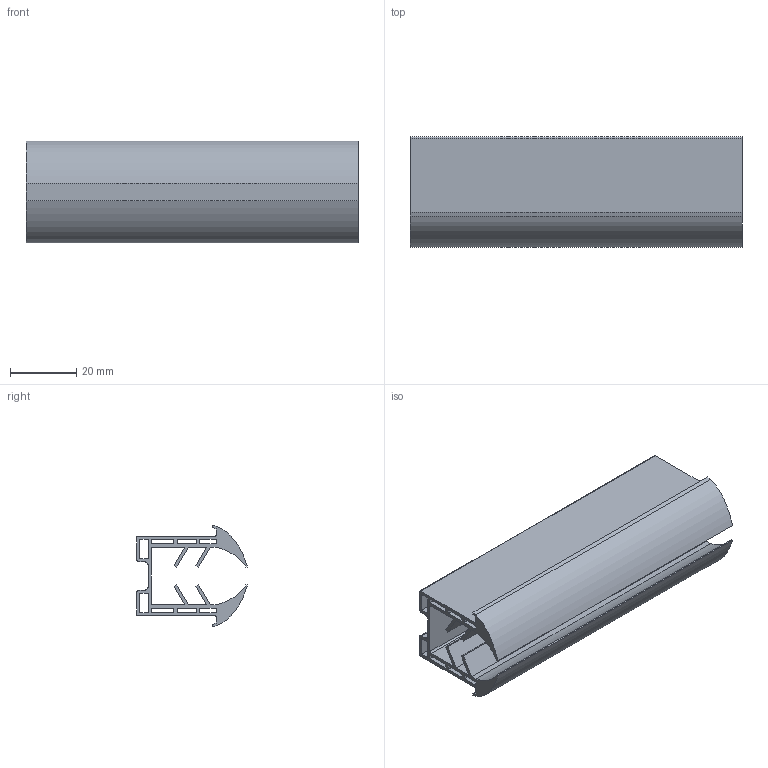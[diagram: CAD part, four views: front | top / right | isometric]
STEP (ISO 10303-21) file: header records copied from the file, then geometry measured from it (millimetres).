
FILE_DESCRIPTION (( 'STEP AP203' ), '1' );
FILE_NAME ('3D_GN6009_24x24_8-10.76_188461560.STEP', '2024-09-23T08:06:53', ( '' ), ( '' ), 'SwSTEP 2.0', 'SolidWorks 2024', '' );
FILE_SCHEMA (( 'CONFIG_CONTROL_DESIGN' ));
Length unit declared in the file: millimetre
Products named in the file (1): 3D_GN6009_24x24_8-10.76_188461560
Bounding box: 100 x 33.41 x 30.67 mm (x, y, z)
Volume: 24621.9 mm3; surface area: 37430.8 mm2
Topology: 1 solids, 1 shells, 84 faces, 246 edges, 164 vertices
Faces by surface type: plane 70, cylinder 10, bspline 4
Entity records: 2867 total; most frequent: CARTESIAN_POINT 531, ORIENTED_EDGE 492, DIRECTION 420, EDGE_CURVE 246, VECTOR 218, LINE 218, VERTEX_POINT 164, AXIS2_PLACEMENT_3D 101
